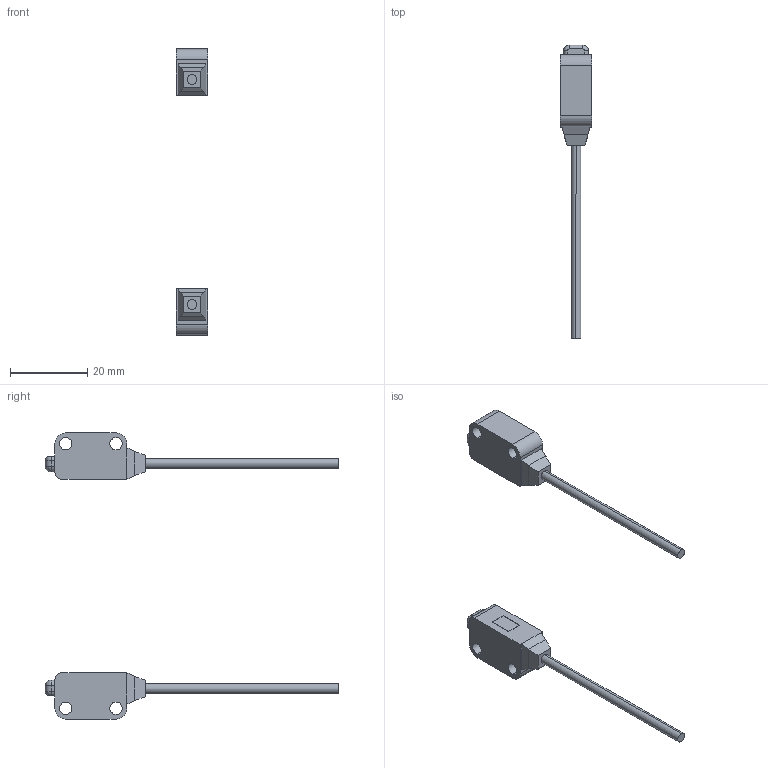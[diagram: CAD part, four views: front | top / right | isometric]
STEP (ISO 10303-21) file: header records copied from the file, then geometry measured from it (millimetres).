
FILE_DESCRIPTION (( 'STEP AP203' ), '1' );
FILE_NAME ('ls-h102.STEP', '2013-05-08T06:04:43', ( ' ' ), ( ' ' ), 'SwSTEP 2.0', 'SolidWorks 2010', '' );
FILE_SCHEMA (( 'CONFIG_CONTROL_DESIGN' ));
Length unit declared in the file: millimetre
Products named in the file (3): ls-102d; ls-102e; ls-h102
Assembly tree (2 placements, depth 2):
  ls-h102
    ls-102e
    ls-102d
Bounding box: 8.2 x 75.9 x 74 mm (x, y, z)
Volume: 4277.5 mm3; surface area: 3118.2 mm2
Topology: 2 solids, 2 shells, 94 faces, 224 edges, 136 vertices
Faces by surface type: plane 52, cylinder 34, sphere 4, torus 4
Entity records: 2981 total; most frequent: DIRECTION 490, CARTESIAN_POINT 455, ORIENTED_EDGE 440, EDGE_CURVE 220, AXIS2_PLACEMENT_3D 171, LINE 148, VECTOR 148, VERTEX_POINT 136
